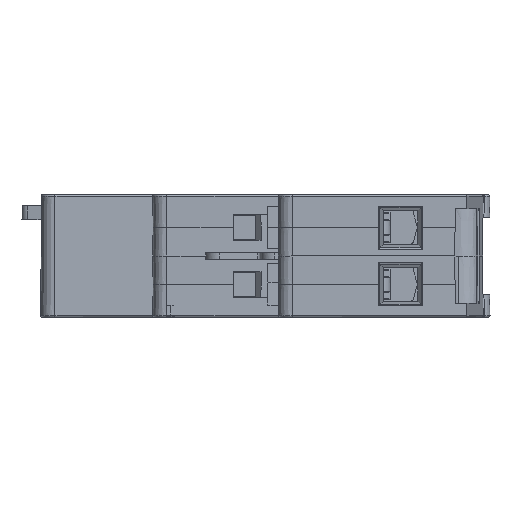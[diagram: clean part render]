
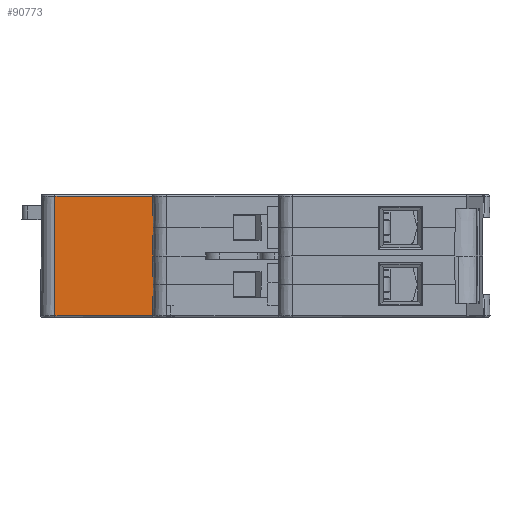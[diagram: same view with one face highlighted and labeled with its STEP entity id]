
A CAD part, left-side view. The second image highlights one B-rep face of the part: STEP entity #90773.
In plain terms, the highlighted planar face has unit normal (-1, 0, 0.009).
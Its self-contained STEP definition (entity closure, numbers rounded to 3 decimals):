
#13636 = EDGE_CURVE ( 'NONE', #17677, #17683, #83698, .T. ) ;
#13639 = EDGE_CURVE ( 'NONE', #17683, #17679, #83759, .T. ) ;
#13640 = EDGE_CURVE ( 'NONE', #17679, #17685, #83766, .T. ) ;
#13642 = EDGE_CURVE ( 'NONE', #17685, #16903, #83780, .T. ) ;
#13643 = EDGE_CURVE ( 'NONE', #16903, #17675, #83787, .T. ) ;
#13648 = EDGE_CURVE ( 'NONE', #17619, #17677, #83849, .T. ) ;
#13906 = EDGE_CURVE ( 'NONE', #17675, #17919, #98827, .T. ) ;
#13910 = EDGE_CURVE ( 'NONE', #17904, #17619, #98882, .T. ) ;
#13912 = EDGE_CURVE ( 'NONE', #17922, #17904, #71292, .T. ) ;
#13913 = EDGE_CURVE ( 'NONE', #17919, #17922, #98887, .T. ) ;
#16903 = VERTEX_POINT ( 'NONE', #41153 ) ;
#17619 = VERTEX_POINT ( 'NONE', #41542 ) ;
#17675 = VERTEX_POINT ( 'NONE', #41642 ) ;
#17677 = VERTEX_POINT ( 'NONE', #41646 ) ;
#17679 = VERTEX_POINT ( 'NONE', #41649 ) ;
#17683 = VERTEX_POINT ( 'NONE', #41656 ) ;
#17685 = VERTEX_POINT ( 'NONE', #41659 ) ;
#17904 = VERTEX_POINT ( 'NONE', #44714 ) ;
#17919 = VERTEX_POINT ( 'NONE', #44723 ) ;
#17922 = VERTEX_POINT ( 'NONE', #44726 ) ;
#18149 = EDGE_LOOP ( 'NONE', ( #67748, #67750, #67752, #67754, #67756, #67758, #67760, #67762, #67764, #67766 ) ) ;
#41153 = CARTESIAN_POINT ( 'NONE',  ( -22.575, 43.598, -8.598 ) ) ;
#41542 = CARTESIAN_POINT ( 'NONE',  ( -22.464, 43.559, 4.1 ) ) ;
#41642 = CARTESIAN_POINT ( 'NONE',  ( -22.575, 57.7, -8.598 ) ) ;
#41646 = CARTESIAN_POINT ( 'NONE',  ( -22.464, 43.564, 4.1 ) ) ;
#41649 = CARTESIAN_POINT ( 'NONE',  ( -22.536, 43.564, -4.1 ) ) ;
#41656 = CARTESIAN_POINT ( 'NONE',  ( -22.5, 43.6, 0. ) ) ;
#41659 = CARTESIAN_POINT ( 'NONE',  ( -22.536, 43.559, -4.1 ) ) ;
#44714 = CARTESIAN_POINT ( 'NONE',  ( -22.425, 43.598, 8.598 ) ) ;
#44723 = CARTESIAN_POINT ( 'NONE',  ( -22.425, 57.7, 8.602 ) ) ;
#44726 = CARTESIAN_POINT ( 'NONE',  ( -22.425, 43.598, 8.602 ) ) ;
#53244 = VECTOR ( 'NONE', #83743, 1000. ) ;
#53248 = VECTOR ( 'NONE', #83764, 1000. ) ;
#53249 = VECTOR ( 'NONE', #83771, 1000. ) ;
#53251 = VECTOR ( 'NONE', #83785, 1000. ) ;
#53252 = VECTOR ( 'NONE', #83792, 1000. ) ;
#53254 = VECTOR ( 'NONE', #83854, 1000. ) ;
#65567 = VECTOR ( 'NONE', #98874, 1000. ) ;
#65587 = VECTOR ( 'NONE', #98884, 1000. ) ;
#65590 = VECTOR ( 'NONE', #98892, 1000. ) ;
#67748 = ORIENTED_EDGE ( 'NONE', *, *, #13643, .F. ) ;
#67750 = ORIENTED_EDGE ( 'NONE', *, *, #13642, .F. ) ;
#67752 = ORIENTED_EDGE ( 'NONE', *, *, #13640, .F. ) ;
#67754 = ORIENTED_EDGE ( 'NONE', *, *, #13639, .F. ) ;
#67756 = ORIENTED_EDGE ( 'NONE', *, *, #13636, .F. ) ;
#67758 = ORIENTED_EDGE ( 'NONE', *, *, #13648, .F. ) ;
#67760 = ORIENTED_EDGE ( 'NONE', *, *, #13910, .F. ) ;
#67762 = ORIENTED_EDGE ( 'NONE', *, *, #13912, .F. ) ;
#67764 = ORIENTED_EDGE ( 'NONE', *, *, #13913, .F. ) ;
#67766 = ORIENTED_EDGE ( 'NONE', *, *, #13906, .F. ) ;
#71292 = B_SPLINE_CURVE_WITH_KNOTS ( 'NONE', 3,
 ( #98886, #98876, #98875, #98888 ),
 .UNSPECIFIED., .F., .F.,
 ( 4, 4 ),
 ( 0., 1. ),
 .UNSPECIFIED. ) ;
#83698 = LINE ( 'NONE', #83739, #53244 ) ;
#83739 = CARTESIAN_POINT ( 'NONE',  ( -22.464, 43.564, 4.1 ) ) ;
#83743 = DIRECTION ( 'NONE',  ( -0.009, 0.009, -1. ) ) ;
#83759 = LINE ( 'NONE', #83762, #53248 ) ;
#83762 = CARTESIAN_POINT ( 'NONE',  ( -22.5, 43.6, 0. ) ) ;
#83764 = DIRECTION ( 'NONE',  ( -0.009, -0.009, -1. ) ) ;
#83766 = LINE ( 'NONE', #83769, #53249 ) ;
#83769 = CARTESIAN_POINT ( 'NONE',  ( -22.536, 34.682, -4.1 ) ) ;
#83771 = DIRECTION ( 'NONE',  ( 0., -1., 0. ) ) ;
#83780 = LINE ( 'NONE', #83783, #53251 ) ;
#83783 = CARTESIAN_POINT ( 'NONE',  ( -22.536, 43.559, -4.1 ) ) ;
#83785 = DIRECTION ( 'NONE',  ( -0.009, 0.009, -1. ) ) ;
#83787 = LINE ( 'NONE', #83790, #53252 ) ;
#83790 = CARTESIAN_POINT ( 'NONE',  ( -22.575, 34.682, -8.598 ) ) ;
#83792 = DIRECTION ( 'NONE',  ( 0., 1., 0. ) ) ;
#83849 = LINE ( 'NONE', #83852, #53254 ) ;
#83852 = CARTESIAN_POINT ( 'NONE',  ( -22.464, 34.682, 4.1 ) ) ;
#83854 = DIRECTION ( 'NONE',  ( 0., 1., 0. ) ) ;
#90402 = AXIS2_PLACEMENT_3D ( 'NONE', #91464, #91466, #91468 ) ;
#90773 = ADVANCED_FACE ( 'NONE', ( #91434 ), #91392, .F. ) ;
#91392 = PLANE ( 'NONE',  #90402 ) ;
#91434 = FACE_OUTER_BOUND ( 'NONE', #18149, .T. ) ;
#91464 = CARTESIAN_POINT ( 'NONE',  ( -22.5, 34.682, 0. ) ) ;
#91466 = DIRECTION ( 'NONE',  ( 1., 0., -0.009 ) ) ;
#91468 = DIRECTION ( 'NONE',  ( -0.009, 0., -1. ) ) ;
#98827 = LINE ( 'NONE', #98873, #65567 ) ;
#98873 = CARTESIAN_POINT ( 'NONE',  ( -22.5, 57.7, 0. ) ) ;
#98874 = DIRECTION ( 'NONE',  ( 0.009, 0., 1. ) ) ;
#98875 = CARTESIAN_POINT ( 'NONE',  ( -22.425, 43.598, 8.599 ) ) ;
#98876 = CARTESIAN_POINT ( 'NONE',  ( -22.425, 43.598, 8.601 ) ) ;
#98882 = LINE ( 'NONE', #98883, #65587 ) ;
#98883 = CARTESIAN_POINT ( 'NONE',  ( -22.425, 43.598, 8.598 ) ) ;
#98884 = DIRECTION ( 'NONE',  ( -0.009, -0.009, -1. ) ) ;
#98886 = CARTESIAN_POINT ( 'NONE',  ( -22.425, 43.598, 8.602 ) ) ;
#98887 = LINE ( 'NONE', #98889, #65590 ) ;
#98888 = CARTESIAN_POINT ( 'NONE',  ( -22.425, 43.598, 8.598 ) ) ;
#98889 = CARTESIAN_POINT ( 'NONE',  ( -22.425, 34.682, 8.602 ) ) ;
#98892 = DIRECTION ( 'NONE',  ( 0., -1., 0. ) ) ;
